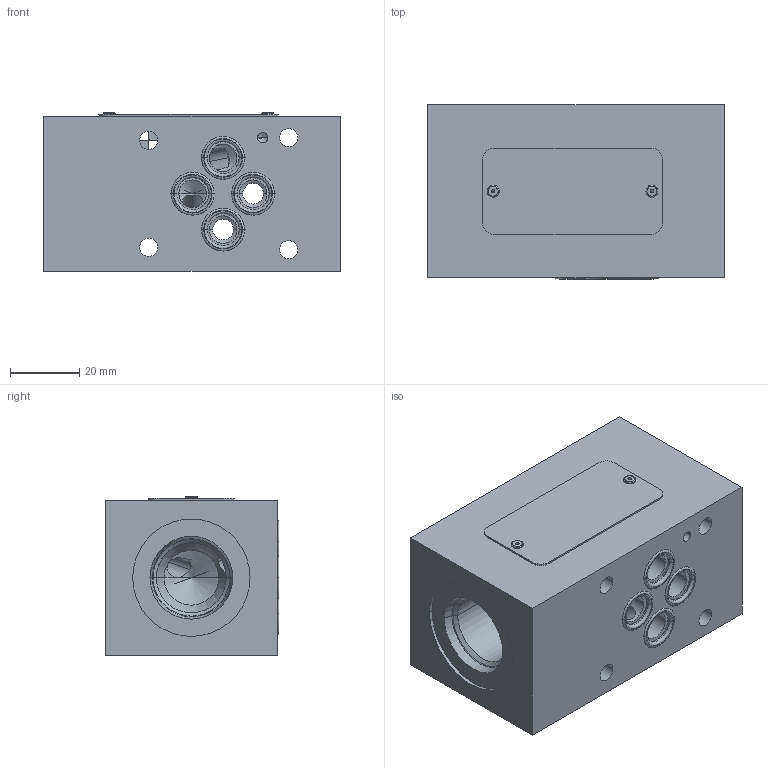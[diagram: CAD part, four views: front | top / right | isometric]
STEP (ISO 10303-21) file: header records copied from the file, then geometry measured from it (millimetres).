
FILE_DESCRIPTION((''),'2;1');
FILE_NAME('1000143475_ASM','2023-10-12T',('l.soukupova'),(''),'PRO/ENGINEER BY PARAMETRIC TECHNOLOGY CORPORATION, 2015440','PRO/ENGINEER BY PARAMETRIC TECHNOLOGY CORPORATION, 2015440','');
FILE_SCHEMA(('AUTOMOTIVE_DESIGN { 1 0 10303 214 1 1 1 1 }'));
Length unit declared in the file: millimetre
Products named in the file (5): 30018002; RD_LABEL_25X52_159703; AF_1932_16485; ORAR00012_201524; 1000143475_ASM
Assembly tree (8 placements, depth 2):
  1000143475_ASM
    30018002
    RD_LABEL_25X52_159703
    AF_1932_16485  x2
    ORAR00012_201524  x4
Bounding box: 86 x 50.38 x 46 mm (x, y, z)
Volume: 171037 mm3; surface area: 34958.6 mm2
Topology: 8 solids, 11 shells, 188 faces, 563 edges, 466 vertices
Faces by surface type: cylinder 90, torus 36, plane 34, cone 28
Entity records: 8170 total; most frequent: CARTESIAN_POINT 1536, DIRECTION 951, ORIENTED_EDGE 624, PRESENTATION_STYLE_ASSIGNMENT 558, STYLED_ITEM 490, CURVE_STYLE 484, AXIS2_PLACEMENT_3D 367, EDGE_CURVE 318
